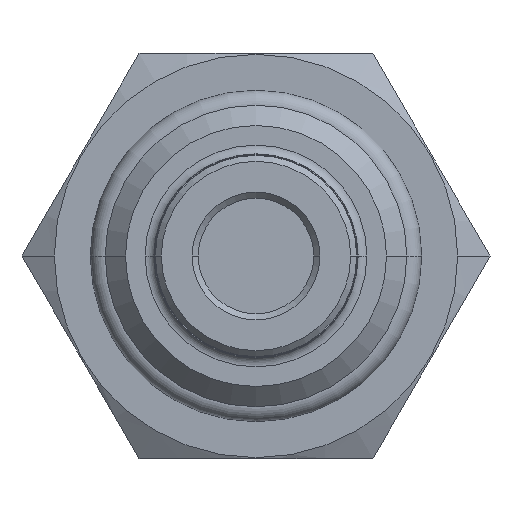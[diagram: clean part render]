
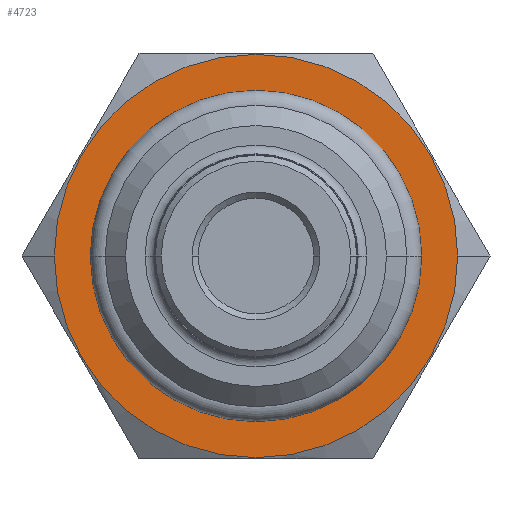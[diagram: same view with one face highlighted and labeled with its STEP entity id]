
A CAD part, front view. The second image highlights one B-rep face of the part: STEP entity #4723.
In plain terms, the highlighted planar face has unit normal (0, -1, 0).
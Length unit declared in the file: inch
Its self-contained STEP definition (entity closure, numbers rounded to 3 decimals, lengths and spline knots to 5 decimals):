
#1039=CARTESIAN_POINT('',(0.,0.,0.));
#1040=DIRECTION('',(0.,-1.,0.));
#1041=DIRECTION('',(1.,0.,0.));
#1042=AXIS2_PLACEMENT_3D('',#1039,#1040,#1041);
#1061=CARTESIAN_POINT('',(0.,0.,0.));
#1062=DIRECTION('',(0.,1.,0.));
#1063=DIRECTION('',(1.,0.,0.));
#1064=AXIS2_PLACEMENT_3D('',#1061,#1062,#1063);
#1069=CARTESIAN_POINT('',(0.,0.,0.));
#1070=DIRECTION('',(0.,1.,0.));
#1071=DIRECTION('',(1.,0.,0.));
#1072=AXIS2_PLACEMENT_3D('',#1069,#1070,#1071);
#1077=CARTESIAN_POINT('',(0.,0.,0.));
#1078=DIRECTION('',(0.,1.,0.));
#1079=DIRECTION('',(-1.,0.,0.));
#1080=AXIS2_PLACEMENT_3D('',#1077,#1078,#1079);
#4311=CARTESIAN_POINT('',(0.4975,0.,0.));
#4313=VERTEX_POINT('',#4311);
#4325=CARTESIAN_POINT('',(-0.4975,0.,0.));
#4327=VERTEX_POINT('',#4325);
#4447=CARTESIAN_POINT('',(0.37152,0.,0.));
#4448=CARTESIAN_POINT('',(-0.37152,0.,0.));
#4449=VERTEX_POINT('',#4447);
#4450=VERTEX_POINT('',#4448);
#4708=CARTESIAN_POINT('',(0.,0.,0.));
#4709=DIRECTION('',(0.,-1.,0.));
#4710=DIRECTION('',(1.,0.,0.));
#4711=AXIS2_PLACEMENT_3D('',#4708,#4709,#4710);
#4712=PLANE('',#4711);
#4713=ORIENTED_EDGE('',*,*,#4703,.T.);
#4714=ORIENTED_EDGE('',*,*,#4687,.F.);
#4715=EDGE_LOOP('',(#4713,#4714));
#4716=FACE_OUTER_BOUND('',#4715,.F.);
#4718=ORIENTED_EDGE('',*,*,#4717,.F.);
#4720=ORIENTED_EDGE('',*,*,#4719,.F.);
#4721=EDGE_LOOP('',(#4718,#4720));
#4722=FACE_BOUND('',#4721,.F.);
#1043=CIRCLE('',#1042,0.4975);
#1065=CIRCLE('',#1064,0.4975);
#1073=CIRCLE('',#1072,0.37152);
#1081=CIRCLE('',#1080,0.37152);
#4687=EDGE_CURVE('',#4313,#4327,#1043,.T.);
#4703=EDGE_CURVE('',#4313,#4327,#1065,.T.);
#4717=EDGE_CURVE('',#4449,#4450,#1073,.T.);
#4719=EDGE_CURVE('',#4450,#4449,#1081,.T.);
#4723=ADVANCED_FACE('',(#4716,#4722),#4712,.T.);
